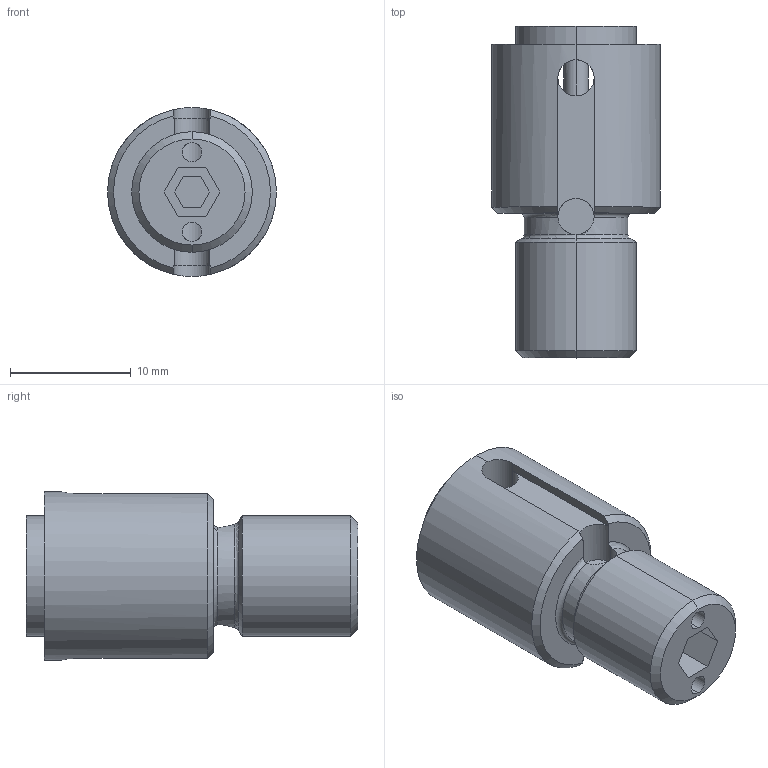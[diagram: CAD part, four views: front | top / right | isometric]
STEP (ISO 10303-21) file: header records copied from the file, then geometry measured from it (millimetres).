
FILE_DESCRIPTION (( 'STEP AP203' ), '1' );
FILE_NAME ('SGD-1415.STEP', '2018-07-25T14:42:08', ( 'Balzi' ), ( '' ), 'SwSTEP 2.0', 'SolidWorks 2017', '' );
FILE_SCHEMA (( 'CONFIG_CONTROL_DESIGN' ));
Length unit declared in the file: millimetre
Products named in the file (1): SGD-1415
Bounding box: 14 x 27.5 x 14 mm (x, y, z)
Volume: 2869 mm3; surface area: 1710.3 mm2
Topology: 1 solids, 1 shells, 60 faces, 162 edges, 104 vertices
Faces by surface type: plane 28, cylinder 22, cone 6, torus 4
Entity records: 2171 total; most frequent: CARTESIAN_POINT 609, ORIENTED_EDGE 320, DIRECTION 294, EDGE_CURVE 160, AXIS2_PLACEMENT_3D 105, VERTEX_POINT 102, VECTOR 84, LINE 84
